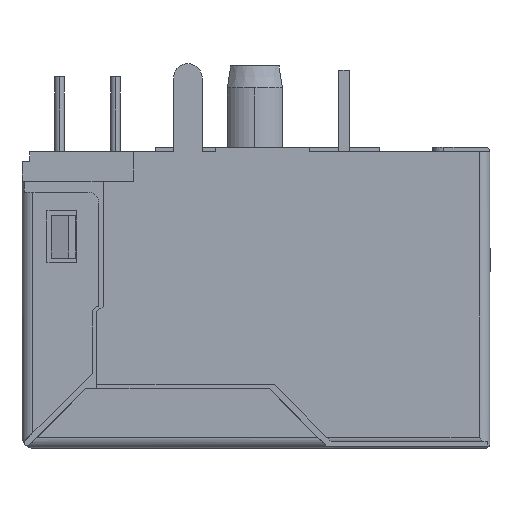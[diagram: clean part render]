
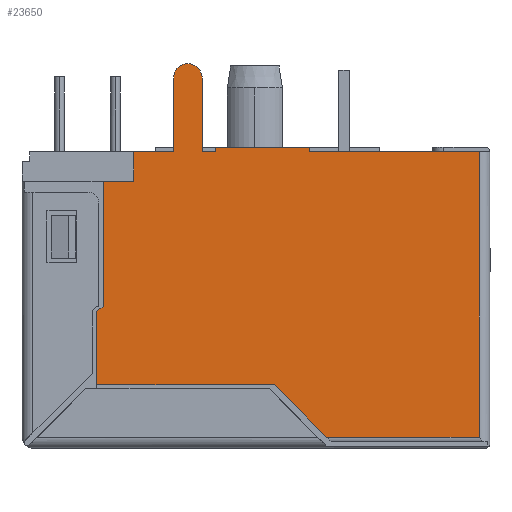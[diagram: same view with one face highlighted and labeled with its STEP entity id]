
A CAD part, left-side view. The second image highlights one B-rep face of the part: STEP entity #23650.
In plain terms, the highlighted planar face has unit normal (-1, 0, 0).
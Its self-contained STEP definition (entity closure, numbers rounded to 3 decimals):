
#352 = EDGE_CURVE ( 'NONE', #2448, #4653, #29201, .T. ) ;
#357 = VECTOR ( 'NONE', #5753, 1000. ) ;
#361 = DIRECTION ( 'NONE',  ( 0., 0., -1. ) ) ;
#616 = VECTOR ( 'NONE', #6109, 1000. ) ;
#777 = ORIENTED_EDGE ( 'NONE', *, *, #16691, .F. ) ;
#906 = DIRECTION ( 'NONE',  ( 0., 1., 0. ) ) ;
#966 = VECTOR ( 'NONE', #26296, 1000. ) ;
#1246 = DIRECTION ( 'NONE',  ( 0., 1., 0. ) ) ;
#1399 = VERTEX_POINT ( 'NONE', #16019 ) ;
#1422 = LINE ( 'NONE', #4278, #28942 ) ;
#2158 = CARTESIAN_POINT ( 'NONE',  ( -7.9, 17.905, -10.998 ) ) ;
#2166 = DIRECTION ( 'NONE',  ( 0., 0., -1. ) ) ;
#2414 = LINE ( 'NONE', #10262, #22733 ) ;
#2448 = VERTEX_POINT ( 'NONE', #9951 ) ;
#2729 = CARTESIAN_POINT ( 'NONE',  ( -7.9, 17.907, -7.468 ) ) ;
#3403 = LINE ( 'NONE', #24777, #10545 ) ;
#3564 = EDGE_CURVE ( 'NONE', #18820, #9354, #6288, .T. ) ;
#3585 = CARTESIAN_POINT ( 'NONE',  ( -7.9, 33.8, -10.6 ) ) ;
#3910 = CARTESIAN_POINT ( 'NONE',  ( -7.9, 8.201, 0. ) ) ;
#4034 = VERTEX_POINT ( 'NONE', #6373 ) ;
#4278 = CARTESIAN_POINT ( 'NONE',  ( -7.9, 20.95, -0.2 ) ) ;
#4653 = VERTEX_POINT ( 'NONE', #23961 ) ;
#4704 = VECTOR ( 'NONE', #20283, 1000. ) ;
#4750 = DIRECTION ( 'NONE',  ( 0., 1., 0. ) ) ;
#4960 = ORIENTED_EDGE ( 'NONE', *, *, #14757, .T. ) ;
#5212 = EDGE_CURVE ( 'NONE', #7618, #26527, #11945, .T. ) ;
#5542 = ORIENTED_EDGE ( 'NONE', *, *, #15014, .T. ) ;
#5753 = DIRECTION ( 'NONE',  ( 0., 0.808, -0.588 ) ) ;
#6109 = DIRECTION ( 'NONE',  ( 0., -0.707, -0.707 ) ) ;
#6180 = CARTESIAN_POINT ( 'NONE',  ( -7.9, 9.819, -10.8 ) ) ;
#6285 = ORIENTED_EDGE ( 'NONE', *, *, #3564, .T. ) ;
#6288 = LINE ( 'NONE', #13945, #616 ) ;
#6373 = CARTESIAN_POINT ( 'NONE',  ( -7.9, 17.798, -10.8 ) ) ;
#6376 = LINE ( 'NONE', #9915, #26324 ) ;
#6475 = ORIENTED_EDGE ( 'NONE', *, *, #11070, .F. ) ;
#7222 = CARTESIAN_POINT ( 'NONE',  ( -7.9, 12.501, 0. ) ) ;
#7250 = VERTEX_POINT ( 'NONE', #10622 ) ;
#7316 = CARTESIAN_POINT ( 'NONE',  ( -7.9, 16.208, -1.548 ) ) ;
#7493 = CARTESIAN_POINT ( 'NONE',  ( -7.9, 14.4, 3.15 ) ) ;
#7618 = VERTEX_POINT ( 'NONE', #17905 ) ;
#7979 = DIRECTION ( 'NONE',  ( 0., 0., -1. ) ) ;
#8273 = LINE ( 'NONE', #17009, #28656 ) ;
#8418 = VERTEX_POINT ( 'NONE', #23464 ) ;
#8659 = VERTEX_POINT ( 'NONE', #34152 ) ;
#8932 = DIRECTION ( 'NONE',  ( 0., 0., 1. ) ) ;
#9354 = VERTEX_POINT ( 'NONE', #24456 ) ;
#9515 = ORIENTED_EDGE ( 'NONE', *, *, #5212, .T. ) ;
#9915 = CARTESIAN_POINT ( 'NONE',  ( -7.9, 20.95, -0.2 ) ) ;
#9951 = CARTESIAN_POINT ( 'NONE',  ( -7.9, 0.498, -0.2 ) ) ;
#9977 = LINE ( 'NONE', #7316, #25755 ) ;
#10017 = VERTEX_POINT ( 'NONE', #18054 ) ;
#10251 = LINE ( 'NONE', #32176, #24380 ) ;
#10262 = CARTESIAN_POINT ( 'NONE',  ( -7.9, -69.825, -13.2 ) ) ;
#10340 = EDGE_CURVE ( 'NONE', #16788, #1399, #11375, .T. ) ;
#10545 = VECTOR ( 'NONE', #361, 1000. ) ;
#10622 = CARTESIAN_POINT ( 'NONE',  ( -7.9, 17.905, -10.8 ) ) ;
#10991 = DIRECTION ( 'NONE',  ( 0., 0., -1. ) ) ;
#11070 = EDGE_CURVE ( 'NONE', #20671, #8418, #6376, .T. ) ;
#11353 = CARTESIAN_POINT ( 'NONE',  ( -7.9, 8.201, 0. ) ) ;
#11375 = CIRCLE ( 'NONE', #26161, 0.65 ) ;
#11945 = LINE ( 'NONE', #25667, #31589 ) ;
#12003 = VERTEX_POINT ( 'NONE', #34887 ) ;
#12863 = VECTOR ( 'NONE', #13043, 1000. ) ;
#13043 = DIRECTION ( 'NONE',  ( 0., -0.001, -1. ) ) ;
#13231 = ORIENTED_EDGE ( 'NONE', *, *, #13774, .F. ) ;
#13774 = EDGE_CURVE ( 'NONE', #33245, #10017, #26481, .T. ) ;
#13789 = ORIENTED_EDGE ( 'NONE', *, *, #28328, .F. ) ;
#13808 = DIRECTION ( 'NONE',  ( 0., 0., -1. ) ) ;
#13945 = CARTESIAN_POINT ( 'NONE',  ( -7.9, 6.747, -13.872 ) ) ;
#14461 = DIRECTION ( 'NONE',  ( 1., 0., 0. ) ) ;
#14655 = VECTOR ( 'NONE', #8932, 1000. ) ;
#14757 = EDGE_CURVE ( 'NONE', #4034, #18820, #24712, .T. ) ;
#14994 = LINE ( 'NONE', #28712, #14655 ) ;
#15005 = VERTEX_POINT ( 'NONE', #7222 ) ;
#15014 = EDGE_CURVE ( 'NONE', #26527, #8659, #8273, .T. ) ;
#15145 = DIRECTION ( 'NONE',  ( 0., -1., 0. ) ) ;
#15762 = EDGE_CURVE ( 'NONE', #33245, #7618, #9977, .T. ) ;
#15793 = ORIENTED_EDGE ( 'NONE', *, *, #19984, .T. ) ;
#15956 = EDGE_CURVE ( 'NONE', #19778, #15005, #17436, .T. ) ;
#16019 = CARTESIAN_POINT ( 'NONE',  ( -7.9, 13.1, 3.15 ) ) ;
#16113 = VECTOR ( 'NONE', #13808, 1000. ) ;
#16686 = ORIENTED_EDGE ( 'NONE', *, *, #21087, .T. ) ;
#16691 = EDGE_CURVE ( 'NONE', #10017, #16788, #14994, .T. ) ;
#16788 = VERTEX_POINT ( 'NONE', #7493 ) ;
#16819 = DIRECTION ( 'NONE',  ( 0., 0., -1. ) ) ;
#16994 = VECTOR ( 'NONE', #10991, 1000. ) ;
#17009 = CARTESIAN_POINT ( 'NONE',  ( -7.9, 17.606, -7.248 ) ) ;
#17391 = ORIENTED_EDGE ( 'NONE', *, *, #15956, .T. ) ;
#17436 = LINE ( 'NONE', #3910, #4704 ) ;
#17874 = EDGE_CURVE ( 'NONE', #19778, #12003, #22380, .T. ) ;
#17905 = CARTESIAN_POINT ( 'NONE',  ( -7.9, 16.208, -1.548 ) ) ;
#18054 = CARTESIAN_POINT ( 'NONE',  ( -7.9, 14.4, -0.2 ) ) ;
#18193 = DIRECTION ( 'NONE',  ( 0., 0., -1. ) ) ;
#18384 = VECTOR ( 'NONE', #32922, 1000. ) ;
#18685 = CARTESIAN_POINT ( 'NONE',  ( -7.9, 0.498, -10.6 ) ) ;
#18703 = CARTESIAN_POINT ( 'NONE',  ( -7.9, 16.208, -0.2 ) ) ;
#18820 = VERTEX_POINT ( 'NONE', #28899 ) ;
#19194 = EDGE_CURVE ( 'NONE', #4653, #9354, #2414, .T. ) ;
#19297 = CARTESIAN_POINT ( 'NONE',  ( -7.9, 8.201, 0. ) ) ;
#19778 = VERTEX_POINT ( 'NONE', #19297 ) ;
#19984 = EDGE_CURVE ( 'NONE', #31762, #7250, #26588, .T. ) ;
#20283 = DIRECTION ( 'NONE',  ( 0., 1., 0. ) ) ;
#20671 = VERTEX_POINT ( 'NONE', #27903 ) ;
#20792 = DIRECTION ( 'NONE',  ( 0., -1., 0. ) ) ;
#21087 = EDGE_CURVE ( 'NONE', #8659, #31762, #27674, .T. ) ;
#21293 = DIRECTION ( 'NONE',  ( 0., -1., 0. ) ) ;
#21297 = ORIENTED_EDGE ( 'NONE', *, *, #10340, .F. ) ;
#21484 = ORIENTED_EDGE ( 'NONE', *, *, #15762, .T. ) ;
#22380 = LINE ( 'NONE', #11353, #16994 ) ;
#22457 = FACE_OUTER_BOUND ( 'NONE', #23885, .T. ) ;
#22733 = VECTOR ( 'NONE', #4750, 1000. ) ;
#22811 = PLANE ( 'NONE',  #24194 ) ;
#23464 = CARTESIAN_POINT ( 'NONE',  ( -7.9, 12.501, -0.2 ) ) ;
#23650 = ADVANCED_FACE ( 'NONE', ( #22457 ), #22811, .F. ) ;
#23885 = EDGE_LOOP ( 'NONE', ( #13789, #26237, #17391, #29282, #6475, #31539, #21297, #777, #13231, #21484, #9515, #5542, #16686, #15793, #27767, #4960, #6285, #29645, #33805 ) ) ;
#23961 = CARTESIAN_POINT ( 'NONE',  ( -7.9, 0.498, -13.2 ) ) ;
#24194 = AXIS2_PLACEMENT_3D ( 'NONE', #3585, #14461, #906 ) ;
#24380 = VECTOR ( 'NONE', #21293, 1000. ) ;
#24391 = EDGE_CURVE ( 'NONE', #15005, #8418, #3403, .T. ) ;
#24456 = CARTESIAN_POINT ( 'NONE',  ( -7.9, 7.419, -13.2 ) ) ;
#24712 = LINE ( 'NONE', #6180, #18384 ) ;
#24777 = CARTESIAN_POINT ( 'NONE',  ( -7.9, 12.501, 0. ) ) ;
#25667 = CARTESIAN_POINT ( 'NONE',  ( -7.9, 16.208, -1.548 ) ) ;
#25755 = VECTOR ( 'NONE', #18193, 1000. ) ;
#26161 = AXIS2_PLACEMENT_3D ( 'NONE', #31579, #26596, #2166 ) ;
#26237 = ORIENTED_EDGE ( 'NONE', *, *, #17874, .F. ) ;
#26296 = DIRECTION ( 'NONE',  ( 0., -1., 0. ) ) ;
#26324 = VECTOR ( 'NONE', #20792, 1000. ) ;
#26436 = CARTESIAN_POINT ( 'NONE',  ( -7.9, 17.606, -1.548 ) ) ;
#26481 = LINE ( 'NONE', #32175, #966 ) ;
#26527 = VERTEX_POINT ( 'NONE', #26436 ) ;
#26588 = LINE ( 'NONE', #2158, #12863 ) ;
#26596 = DIRECTION ( 'NONE',  ( 1., 0., 0. ) ) ;
#27674 = LINE ( 'NONE', #30170, #357 ) ;
#27767 = ORIENTED_EDGE ( 'NONE', *, *, #30246, .T. ) ;
#27903 = CARTESIAN_POINT ( 'NONE',  ( -7.9, 13.1, -0.2 ) ) ;
#28328 = EDGE_CURVE ( 'NONE', #12003, #2448, #1422, .T. ) ;
#28656 = VECTOR ( 'NONE', #16819, 1000. ) ;
#28712 = CARTESIAN_POINT ( 'NONE',  ( -7.9, 14.4, 3.15 ) ) ;
#28855 = CARTESIAN_POINT ( 'NONE',  ( -7.9, 13.1, -0.2 ) ) ;
#28899 = CARTESIAN_POINT ( 'NONE',  ( -7.9, 9.819, -10.8 ) ) ;
#28942 = VECTOR ( 'NONE', #15145, 1000. ) ;
#29201 = LINE ( 'NONE', #18685, #33481 ) ;
#29282 = ORIENTED_EDGE ( 'NONE', *, *, #24391, .T. ) ;
#29645 = ORIENTED_EDGE ( 'NONE', *, *, #19194, .F. ) ;
#30170 = CARTESIAN_POINT ( 'NONE',  ( -7.9, 17.606, -7.248 ) ) ;
#30246 = EDGE_CURVE ( 'NONE', #7250, #4034, #10251, .T. ) ;
#31328 = EDGE_CURVE ( 'NONE', #1399, #20671, #34215, .T. ) ;
#31539 = ORIENTED_EDGE ( 'NONE', *, *, #31328, .F. ) ;
#31579 = CARTESIAN_POINT ( 'NONE',  ( -7.9, 13.75, 3.15 ) ) ;
#31589 = VECTOR ( 'NONE', #1246, 1000. ) ;
#31762 = VERTEX_POINT ( 'NONE', #2729 ) ;
#32175 = CARTESIAN_POINT ( 'NONE',  ( -7.9, 20.95, -0.2 ) ) ;
#32176 = CARTESIAN_POINT ( 'NONE',  ( -7.9, 18.298, -10.8 ) ) ;
#32922 = DIRECTION ( 'NONE',  ( 0., -1., 0. ) ) ;
#33245 = VERTEX_POINT ( 'NONE', #18703 ) ;
#33481 = VECTOR ( 'NONE', #7979, 1000. ) ;
#33805 = ORIENTED_EDGE ( 'NONE', *, *, #352, .F. ) ;
#34152 = CARTESIAN_POINT ( 'NONE',  ( -7.9, 17.606, -7.248 ) ) ;
#34215 = LINE ( 'NONE', #28855, #16113 ) ;
#34887 = CARTESIAN_POINT ( 'NONE',  ( -7.9, 8.201, -0.2 ) ) ;
